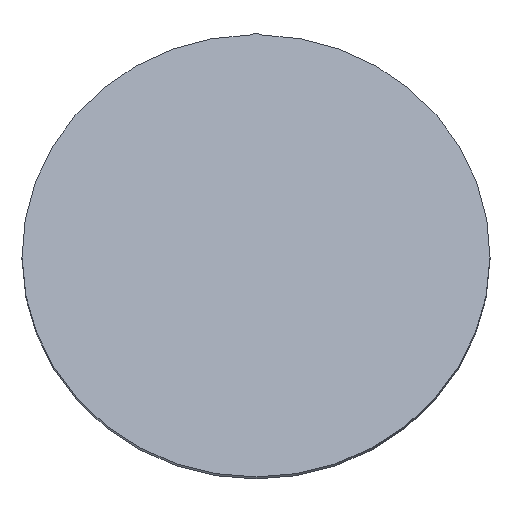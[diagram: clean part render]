
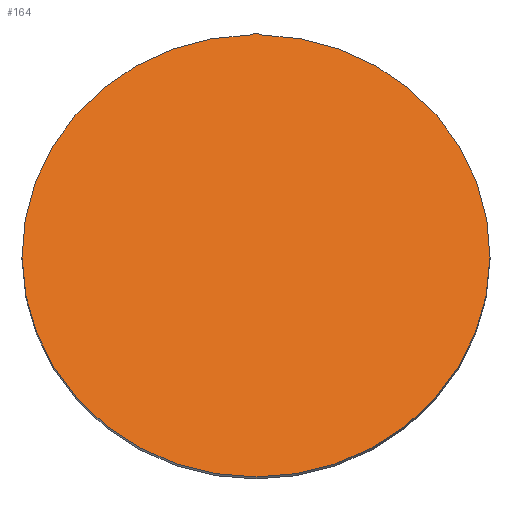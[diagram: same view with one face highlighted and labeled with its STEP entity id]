
A CAD part, top view. The second image highlights one B-rep face of the part: STEP entity #164.
In plain terms, the highlighted planar face has unit normal (0, 0.326, 0.946).
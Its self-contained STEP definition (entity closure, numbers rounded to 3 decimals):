
#21=PLANE('',#195);
#28=FACE_OUTER_BOUND('',#39,.T.);
#39=EDGE_LOOP('',(#127,#128));
#49=CIRCLE('',#187,192.5);
#54=CIRCLE('',#194,4.);
#75=VERTEX_POINT('',#271);
#77=VERTEX_POINT('',#274);
#91=EDGE_CURVE('',#77,#75,#49,.T.);
#98=EDGE_CURVE('',#75,#77,#54,.T.);
#127=ORIENTED_EDGE('',*,*,#98,.T.);
#128=ORIENTED_EDGE('',*,*,#91,.T.);
#164=ADVANCED_FACE('',(#28),#21,.T.);
#187=AXIS2_PLACEMENT_3D('',#275,#216,#217);
#194=AXIS2_PLACEMENT_3D('',#287,#232,#233);
#195=AXIS2_PLACEMENT_3D('',#288,#234,#235);
#216=DIRECTION('center_axis',(0.,0.326,0.946));
#217=DIRECTION('ref_axis',(-1.,0.,0.));
#232=DIRECTION('center_axis',(0.,0.326,0.946));
#233=DIRECTION('ref_axis',(-1.,0.,0.));
#234=DIRECTION('center_axis',(0.,0.326,0.946));
#235=DIRECTION('ref_axis',(-1.,0.,0.));
#271=CARTESIAN_POINT('',(3.143,179.414,365.532));
#274=CARTESIAN_POINT('',(-3.143,179.414,365.532));
#275=CARTESIAN_POINT('Origin',(0.,-2.575,428.195));
#287=CARTESIAN_POINT('Origin',(0.,177.074,366.337));
#288=CARTESIAN_POINT('Origin',(0.,177.074,366.337));
